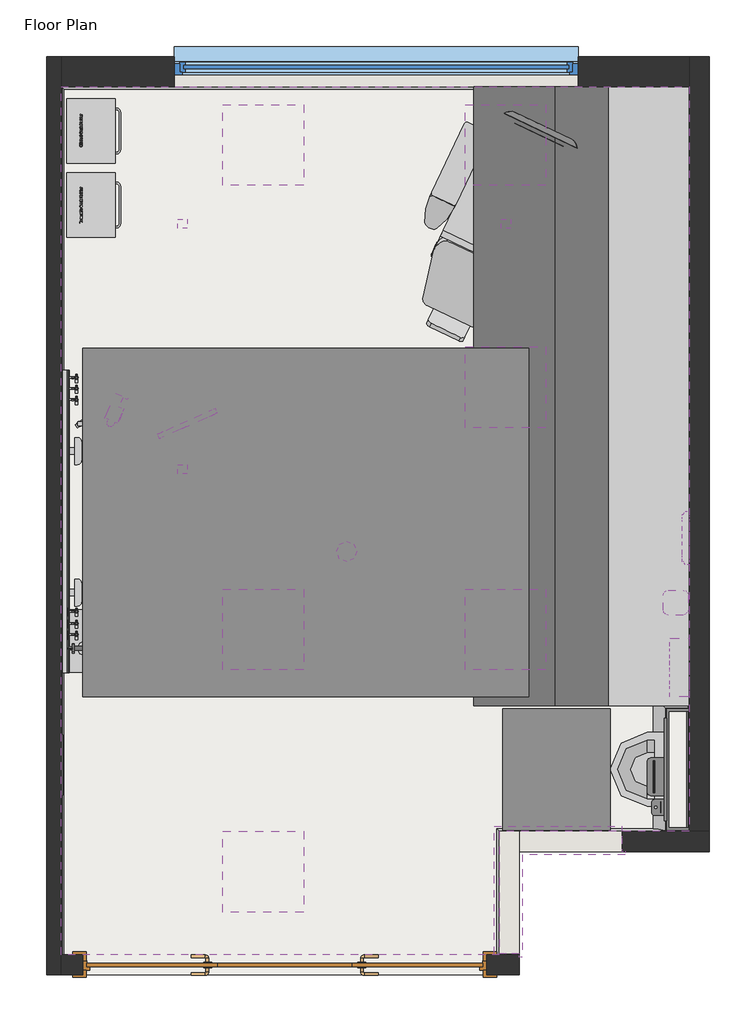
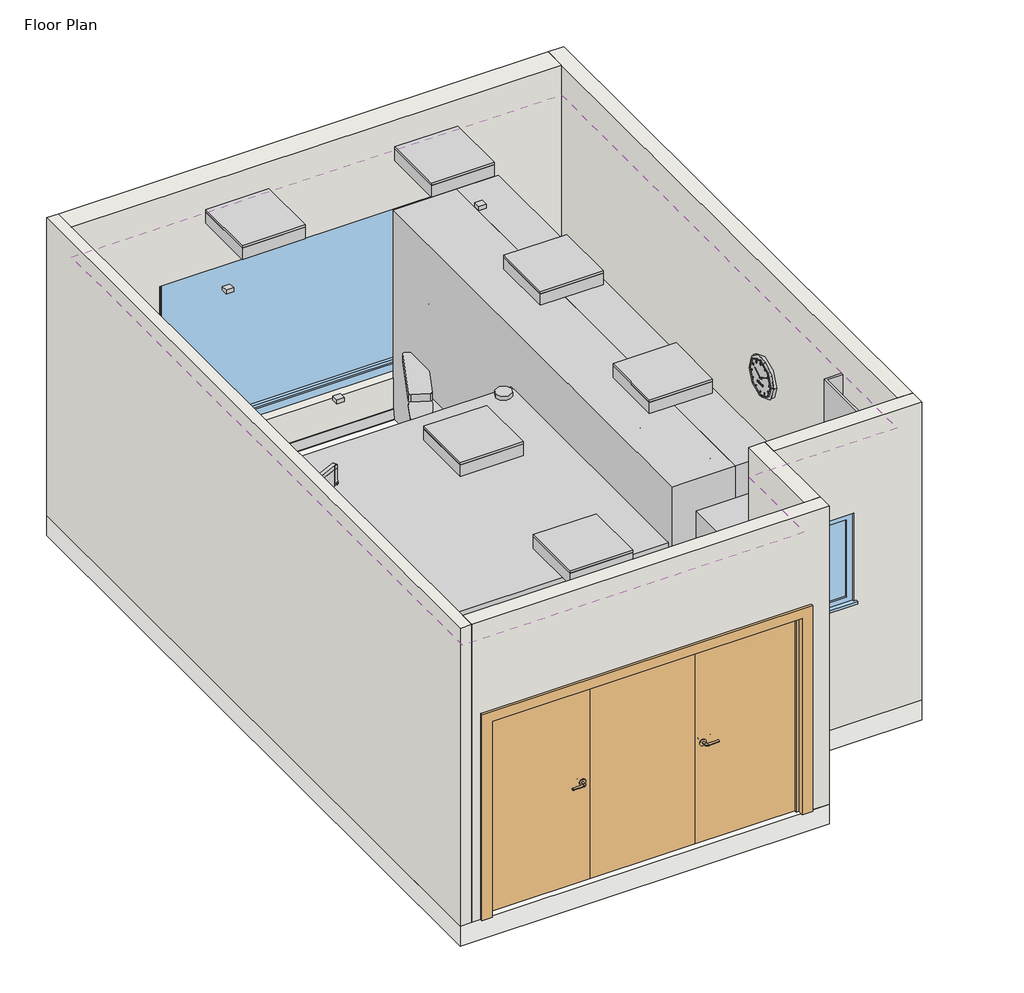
# One storey, incomplete: 21 proxies, 8 furniture elements, 6 light fixtures, 6 walls, 5 flow terminals, 2 windows, 1 covering, 1 door, 1 slab.
"""IFC4 building model written with IfcOpenShell, lengths in millimetres."""

from ifc_helpers import new_model, si_unit, frame, origin, place, context, project, spatial, polyline, outline, extrude, faceted_brep, transform, mapped, element, save
from components import generic_models_60647dcf, generic_models_1c4e6ef4, generic_models_1eb8e886, generic_models_cb7718f0, generic_models_51914271, generic_models_69a9413b, generic_models_2b17b7d5, generic_models_63d57467, generic_models_cb70edec, generic_models_a71c04e4, generic_models_7e8e4800, bimhealth_electrical_smoke_detector_v1_bimhealth_electrical_fe9fcb6c, bimhealth_extract_air_v1_bimhealth_extract_air_v1_c0e02c9f, bimhealth_trolley_mobile_cart_v1_bimhealth_trolley_mobile_f11bc73b, skirting_5_skirting_5_09078047, door_7abc1c69, flow_terminal_1bc39f43, flow_terminal_8b284a73, flow_terminal_9bf15598, flow_terminal_4f1cfbb8, flow_terminal_58a78672, furniture_204bb5f4, furniture_2942776d, furniture_197fe330, furniture_610823a6, furniture_d13f64de, furniture_92968415, furniture_166ce8d1, furniture_26d36cfe, light_fixture_600x600mm_2_lamps_e1dca80e, light_fixture_600x600mm_2_lamps_0dee724d, windows_concept_plain_sgl_910x910mm_68dbefe1, windows_corner_910x910mm_2c07b4f4

model = new_model("IFC4")

# Units and contexts
model_context = context("Model", 3, world=origin())
ifc_project = project(units=[si_unit("LENGTHUNIT", "METRE", prefix="MILLI")], contexts=[model_context])

# Site, building, storey
site = spatial("IfcSite", under=ifc_project)
building = spatial("IfcBuilding", under=site)
storey = spatial("IfcBuildingStorey", under=building, Name="Floor Plan", Elevation=0.0)

# Proxies
placement = place(None, origin())
generic_models_shape = generic_models_60647dcf(model_context)
element("IfcBuildingElementProxy", 1, Name="BIMHealth-Flowmeter_Oxygen-LOD2A-v1 : BIMHealth-Flowmeter_Oxygen-LOD2A-v1", ObjectType="BIMHealth-Flowmeter_Oxygen-LOD2A-v1 : BIMHealth-Flowmeter_Oxygen-LOD2A-v1", at=placement, inside=storey, context=model_context, shape_type="MappedRepresentation", body=[
    mapped(generic_models_shape, transform((19721.5692706, 5438.2788549, -47.5), x_axis=(0.0, -1.0000000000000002, 0.0), y_axis=(1.0000000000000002, 0.0, 0.0), z_axis=(0.0, 0.0, 1.0))),
])
element("IfcBuildingElementProxy", 2, Name="BIMHealth-Flowmeter_Oxygen-LOD2A-v1 : BIMHealth-Flowmeter_Oxygen-LOD2A-v1", ObjectType="BIMHealth-Flowmeter_Oxygen-LOD2A-v1 : BIMHealth-Flowmeter_Oxygen-LOD2A-v1", at=placement, inside=storey, context=model_context, shape_type="MappedRepresentation", body=[
    mapped(generic_models_shape, transform((19721.5692706, 5358.2788549, -47.5), x_axis=(0.0, -1.0000000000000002, 0.0), y_axis=(1.0000000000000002, 0.0, 0.0), z_axis=(0.0, 0.0, 1.0))),
])
element("IfcBuildingElementProxy", 3, Name="BIMHealth-Flowmeter_Oxygen-LOD2A-v1 : BIMHealth-Flowmeter_Oxygen-LOD2A-v1", ObjectType="BIMHealth-Flowmeter_Oxygen-LOD2A-v1 : BIMHealth-Flowmeter_Oxygen-LOD2A-v1", at=placement, inside=storey, context=model_context, shape_type="MappedRepresentation", body=[
    mapped(generic_models_shape, transform((19721.5692706, 3701.6575717, -47.5), x_axis=(0.0, -1.0000000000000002, 0.0), y_axis=(1.0000000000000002, 0.0, 0.0), z_axis=(0.0, 0.0, 1.0))),
])
element("IfcBuildingElementProxy", 4, Name="BIMHealth-Flowmeter_Oxygen-LOD2A-v1 : BIMHealth-Flowmeter_Oxygen-LOD2A-v1", ObjectType="BIMHealth-Flowmeter_Oxygen-LOD2A-v1 : BIMHealth-Flowmeter_Oxygen-LOD2A-v1", at=placement, inside=storey, context=model_context, shape_type="MappedRepresentation", body=[
    mapped(generic_models_shape, transform((19721.5692706, 3611.6575717, -47.5), x_axis=(0.0, -1.0000000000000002, 0.0), y_axis=(1.0000000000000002, 0.0, 0.0), z_axis=(0.0, 0.0, 1.0))),
])
generic_models_2_shape = generic_models_1c4e6ef4(model_context)
element("IfcBuildingElementProxy", 5, Name="BIMHealth-Flowmeter_Suction-LOD2A-v1 : BIMHealth-Flowmeter_Suction-LOD2A-v1", ObjectType="BIMHealth-Flowmeter_Suction-LOD2A-v1 : BIMHealth-Flowmeter_Suction-LOD2A-v1", at=placement, inside=storey, context=model_context, shape_type="MappedRepresentation", body=[
    mapped(generic_models_2_shape, transform((19803.5428574, 3427.1143544, -22.5), x_axis=(0.0, 1.0000000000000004, 0.0), y_axis=(-1.0000000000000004, 0.0, 0.0), z_axis=(0.0, 0.0, 1.0))),
])
generic_models_3_shape = generic_models_1eb8e886(model_context)
element("IfcBuildingElementProxy", 6, Name="BIMHealth-Flowmeter_Air-LOD2A-v1 : BIMHealth-Flowmeter_Air-LOD2A-v1", ObjectType="BIMHealth-Flowmeter_Air-LOD2A-v1 : BIMHealth-Flowmeter_Air-LOD2A-v1", at=placement, inside=storey, context=model_context, shape_type="MappedRepresentation", body=[
    mapped(generic_models_3_shape, transform((19721.5692706, 5274.4265548, -48.75), x_axis=(0.0, -1.0, 0.0), y_axis=(1.0, 0.0, 0.0), z_axis=(0.0, 0.0, 1.0))),
])
element("IfcBuildingElementProxy", 7, Name="BIMHealth-Flowmeter_Air-LOD2A-v1 : BIMHealth-Flowmeter_Air-LOD2A-v1", ObjectType="BIMHealth-Flowmeter_Air-LOD2A-v1 : BIMHealth-Flowmeter_Air-LOD2A-v1", at=placement, inside=storey, context=model_context, shape_type="MappedRepresentation", body=[
    mapped(generic_models_3_shape, transform((19721.5692706, 3529.4265548, -47.5), x_axis=(0.0, -1.0, 0.0), y_axis=(1.0, 0.0, 0.0), z_axis=(0.0, 0.0, 1.0))),
])
generic_models_4_shape = generic_models_cb7718f0(model_context)
element("IfcBuildingElementProxy", 8, Name="BIMHealth-Table_Overbed-LOD2A-v1 : BIMHealth-Table_Overbed-LOD2A-v1", ObjectType="BIMHealth-Table_Overbed-LOD2A-v1 : BIMHealth-Table_Overbed-LOD2A-v1", at=placement, inside=storey, context=model_context, shape_type="MappedRepresentation", body=[
    mapped(generic_models_4_shape, transform((20242.2361877, 5358.2284231, 0.0), x_axis=(1.0000000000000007, 0.0, 0.0), y_axis=(0.0, 1.0000000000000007, 0.0), z_axis=(0.0, 0.0, 1.0))),
])
generic_models_5_shape = generic_models_51914271(model_context)
element("IfcBuildingElementProxy", 9, Name="BIMHealth-Locker_Bedside-LOD2A-v1 : BIMHealth-Locker_Bedside-LOD2A-v1", ObjectType="BIMHealth-Locker_Bedside-LOD2A-v1 : BIMHealth-Locker_Bedside-LOD2A-v1", at=placement, inside=storey, context=model_context, shape_type="MappedRepresentation", body=[
    mapped(generic_models_5_shape, transform((19674.4763599, 3207.845391, 0.0), x_axis=(0.0, 1.0000000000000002, 0.0), y_axis=(-1.0000000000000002, 0.0, 0.0), z_axis=(0.0, 0.0, 1.0))),
])
generic_models_6_shape = generic_models_69a9413b(model_context)
element("IfcBuildingElementProxy", 10, Name="BIMHealth-Drip_Stand-LOD2A-v1 : BIMHealth-Drip_Stand-LOD2A-v1", ObjectType="BIMHealth-Drip_Stand-LOD2A-v1 : BIMHealth-Drip_Stand-LOD2A-v1", at=placement, inside=storey, context=model_context, shape_type="MappedRepresentation", body=[
    mapped(generic_models_6_shape, transform((19973.3679392, 5096.3280134, 0.0), x_axis=(-0.5877852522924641, 0.8090169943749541, 0.0), y_axis=(-0.8090169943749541, -0.5877852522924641, 0.0), z_axis=(0.0, 0.0, 1.0))),
])
generic_models_7_shape = generic_models_2b17b7d5(model_context)
element("IfcBuildingElementProxy", 11, Name="BIMHealth-Worktop-LOD2A-v1 : BIMHealth-Worktop-LOD2A-v1", ObjectType="BIMHealth-Worktop-LOD2A-v1 : BIMHealth-Worktop-LOD2A-v1", at=placement, inside=storey, context=model_context, shape_type="MappedRepresentation", body=[
    mapped(generic_models_7_shape, transform((24273.6241002, 7601.4276279, 0.0), x_axis=(0.0, -1.0, 0.0), y_axis=(1.0, 0.0, 0.0), z_axis=(0.0, 0.0, 1.0))),
])
generic_models_8_shape = generic_models_63d57467(model_context)
element("IfcBuildingElementProxy", 12, Name="BIMHealth-Dado_Double_Trunking-LOD2A-v1 : BIMHealth-Dado_Double_Trunking-LOD2A-v1", ObjectType="BIMHealth-Dado_Double_Trunking-LOD2A-v1 : BIMHealth-Dado_Double_Trunking-LOD2A-v1", at=placement, inside=storey, context=model_context, shape_type="MappedRepresentation", body=[
    mapped(generic_models_8_shape, transform((19658.6241155, 5493.7473932, 1100.0), x_axis=(0.0, -1.0000000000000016, 0.0), y_axis=(1.0000000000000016, 0.0, 0.0), z_axis=(0.0, 0.0, 1.0))),
])
generic_models_9_shape = generic_models_cb70edec(model_context)
element("IfcBuildingElementProxy", 13, Name="BIMHealth-IV_Pump-LOD2A-v1 : BIMHealth-IV_Pump-LOD2A-v1", ObjectType="BIMHealth-IV_Pump-LOD2A-v1 : BIMHealth-IV_Pump-LOD2A-v1", at=placement, inside=storey, context=model_context, shape_type="MappedRepresentation", body=[
    mapped(generic_models_9_shape, transform((19932.9194708, 5138.4195333, 0.0), x_axis=(0.39073112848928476, 0.9205048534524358, 0.0), y_axis=(-0.9205048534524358, 0.39073112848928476, 0.0), z_axis=(0.0, 0.0, 1.0))),
])
generic_models_10_shape = generic_models_a71c04e4(model_context)
element("IfcBuildingElementProxy", 14, Name="BIMHealth-Monitor_Intellivue-LOD2A-v1 : BIMHealth-Monitor_Intellivue-LOD2A-v1", ObjectType="BIMHealth-Monitor_Intellivue-LOD2A-v1 : BIMHealth-Monitor_Intellivue-LOD2A-v1", at=placement, inside=storey, context=model_context, shape_type="MappedRepresentation", body=[
    mapped(generic_models_10_shape, transform((20336.6346234, 4989.2293263, 770.0), x_axis=(0.9138541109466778, 0.4060426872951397, 0.0), y_axis=(-0.4060426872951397, 0.9138541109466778, 0.0), z_axis=(0.0, 0.0, 1.0))),
])
generic_models_11_shape = generic_models_7e8e4800(model_context)
element("IfcBuildingElementProxy", 15, Name="BIMHealth-Danicentre_ppe_Dispenser-LOD2A-v1 : BIMHealth-Danicentre_ppe_Dispenser-LOD2A-v1", ObjectType="BIMHealth-Danicentre_ppe_Dispenser-LOD2A-v1 : BIMHealth-Danicentre_ppe_Dispenser-LOD2A-v1", at=placement, inside=storey, context=model_context, shape_type="MappedRepresentation", body=[
    mapped(generic_models_11_shape, transform((24128.6241002, 3066.4276279, 0.0), x_axis=(0.0, 1.0000000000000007, 0.0), y_axis=(-1.0000000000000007, 0.0, 0.0), z_axis=(0.0, 0.0, 1.0))),
])
bimhealth_electrical_smoke_detector_v1_bimhealth_electrical_shape = bimhealth_electrical_smoke_detector_v1_bimhealth_electrical_fe9fcb6c(model_context)
element("IfcBuildingElementProxy", 16, Name="BIMHealth-Electrical-Smoke_Detector-v1 : BIMHealth-Electrical-Smoke_Detector-v1", ObjectType="BIMHealth-Electrical-Smoke_Detector-v1 : BIMHealth-Electrical-Smoke_Detector-v1", at=placement, inside=storey, context=model_context, shape_type="MappedRepresentation", body=[
    mapped(bimhealth_electrical_smoke_detector_v1_bimhealth_electrical_shape, transform((21728.6241155, 4146.5459216, 261.6), x_axis=(1.0, 0.0, 0.0), y_axis=(0.0, 1.0, 0.0), z_axis=(0.0, 0.0, 1.0))),
])
bimhealth_extract_air_v1_bimhealth_extract_air_v1_shape = bimhealth_extract_air_v1_bimhealth_extract_air_v1_c0e02c9f(model_context)
element("IfcBuildingElementProxy", 17, Name="BIMHealth-Extract_Air-v1 : BIMHealth-Extract_Air-v1", ObjectType="BIMHealth-Extract_Air-v1 : BIMHealth-Extract_Air-v1", at=placement, inside=storey, context=model_context, shape_type="MappedRepresentation", body=[
    mapped(bimhealth_extract_air_v1_bimhealth_extract_air_v1_shape, transform((20508.6241155, 4757.4063161, 261.6), x_axis=(1.0, 0.0, 0.0), y_axis=(0.0, 1.0, 0.0), z_axis=(0.0, 0.0, 1.0))),
])
element("IfcBuildingElementProxy", 18, Name="BIMHealth-Supply_Air-v1 : BIMHealth-Supply_Air-v1", ObjectType="BIMHealth-Supply_Air-v1 : BIMHealth-Supply_Air-v1", at=placement, inside=storey, context=model_context, shape_type="MappedRepresentation", body=[
    mapped(bimhealth_extract_air_v1_bimhealth_extract_air_v1_shape, transform((20508.6241155, 6581.4276279, 261.6), x_axis=(1.0, 0.0, 0.0), y_axis=(0.0, 1.0, 0.0), z_axis=(0.0, 0.0, 1.0))),
])
element("IfcBuildingElementProxy", 19, Name="BIMHealth-Supply_Air-v1 : BIMHealth-Supply_Air-v1", ObjectType="BIMHealth-Supply_Air-v1 : BIMHealth-Supply_Air-v1", at=placement, inside=storey, context=model_context, shape_type="MappedRepresentation", body=[
    mapped(bimhealth_extract_air_v1_bimhealth_extract_air_v1_shape, transform((22913.6241002, 6581.4276279, 261.6), x_axis=(1.0, 0.0, 0.0), y_axis=(0.0, 1.0, 0.0), z_axis=(0.0, 0.0, 1.0))),
])
bimhealth_trolley_mobile_cart_v1_bimhealth_trolley_mobile_shape = bimhealth_trolley_mobile_cart_v1_bimhealth_trolley_mobile_f11bc73b(model_context)
element("IfcBuildingElementProxy", 20, Name="BIMHealth-Trolley_Mobile_Cart-v1 : BIMHealth-Trolley_Mobile_Cart-v1", ObjectType="BIMHealth-Trolley_Mobile_Cart-v1 : BIMHealth-Trolley_Mobile_Cart-v1", at=placement, inside=storey, context=model_context, shape_type="MappedRepresentation", body=[
    mapped(bimhealth_trolley_mobile_cart_v1_bimhealth_trolley_mobile_shape, transform((23774.5221427, 5184.0482091, 0.0), x_axis=(0.0, 1.0, 0.0), y_axis=(-1.0, 0.0, 0.0), z_axis=(0.0, 0.0, 1.0))),
])
skirting_5_skirting_5_shape = skirting_5_skirting_5_09078047(model_context)
element("IfcBuildingElementProxy", 21, Name="Skirting 5 : Skirting 5", ObjectType="Skirting 5 : Skirting 5", at=placement, inside=storey, context=model_context, shape_type="MappedRepresentation", body=[
    mapped(skirting_5_skirting_5_shape, transform((0.0, 0.0, 0.0), x_axis=(1.0, 0.0, 0.0), y_axis=(0.0, 1.0, 0.0), z_axis=(0.0, 0.0, 1.0))),
])

# Covering
element("IfcCovering", 22, ObjectType="BIMHealth - Generic Ceiling", at=placement, inside=storey, context=model_context, shape_type="SweptSolid", body=[
    extrude(outline(polyline([(19608.6241155, 7601.4276279), (24273.6241002, 7601.4276279), (24273.6241002, 2066.7284231), (22863.0918683, 2066.7284231), (22863.0918683, 1151.4273532), (19608.6241155, 1151.4273532), (19608.6241155, 7601.4276279)]), holes=[polyline([(21408.6241155, 7466.7284231), (20808.6241155, 7466.7284231), (20808.6241155, 6866.7284231), (21408.6241155, 6866.7284231), (21408.6241155, 7466.7284231)]), polyline([(23208.6241155, 7466.7284231), (22608.6241155, 7466.7284231), (22608.6241155, 6866.7284231), (23208.6241155, 6866.7284231), (23208.6241155, 7466.7284231)]), polyline([(23208.6241155, 5666.7284231), (22608.6241155, 5666.7284231), (22608.6241155, 5066.7284231), (23208.6241155, 5066.7284231), (23208.6241155, 5666.7284231)]), polyline([(23208.6241155, 3866.7284231), (22608.6241155, 3866.7284231), (22608.6241155, 3266.7284231), (23208.6241155, 3266.7284231), (23208.6241155, 3866.7284231)]), polyline([(21408.6241155, 3866.7284231), (20808.6241155, 3866.7284231), (20808.6241155, 3266.7284231), (21408.6241155, 3266.7284231), (21408.6241155, 3866.7284231)]), polyline([(21408.6241155, 2066.7284231), (20808.6241155, 2066.7284231), (20808.6241155, 1466.7284231), (21408.6241155, 1466.7284231), (21408.6241155, 2066.7284231)])]), frame((0.0, 0.0, 2700.0), z_axis=(0.0, 0.0, 1.0), x_axis=(1.0, 0.0, 0.0)), (0.0, 0.0, 1.0), 52.0),
])

# Door
door_shape = door_7abc1c69(model_context)
element("IfcDoor", 23, ObjectType="BIMHealth-Triple_Door-LOD2A-v1 : BIMHealth-Triple_Door-LOD2A-v1", at=placement, inside=storey, context=model_context, shape_type="MappedRepresentation", body=[
    mapped(door_shape, transform((21268.3918683, 1076.4273532, 0.0), x_axis=(-1.0, 0.0, 0.0), y_axis=(0.0, -1.0, 0.0), z_axis=(0.0, 0.0, 1.0))),
])

# Flow terminals
flow_terminal_shape = flow_terminal_1bc39f43(model_context)
element("IfcFlowTerminal", 24, ObjectType="BIMHealth-Analogue-Clockl-LOD2A-v1 : BIMHealth-Analogue-Clockl-LOD2A-v1", at=placement, inside=storey, context=model_context, shape_type="MappedRepresentation", body=[
    mapped(flow_terminal_shape, transform((24273.6241002, 4246.7284231, 0.0), x_axis=(0.0, -1.0000000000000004, 0.0), y_axis=(1.0000000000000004, 0.0, 0.0), z_axis=(0.0, 0.0, 1.0))),
])
flow_terminal_2_shape = flow_terminal_8b284a73(model_context)
element("IfcFlowTerminal", 25, ObjectType="BIMHealth-Sharps-Bin-LOD2A-v1 : BIMHealth-Sharps-Bin-LOD2A-v1", at=placement, inside=storey, context=model_context, shape_type="MappedRepresentation", body=[
    mapped(flow_terminal_2_shape, transform((24173.6241002, 3766.7284231, 1200.0), x_axis=(0.0, -1.0000000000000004, 0.0), y_axis=(1.0000000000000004, 0.0, 0.0), z_axis=(0.0, 0.0, 1.0))),
])
flow_terminal_3_shape = flow_terminal_9bf15598(model_context)
element("IfcFlowTerminal", 26, ObjectType="BIMHealth-Wash_basin_Doc_M-LOD2A-v1 : BIMHealth-Wash_basin_Doc_M-LOD2A-v1", at=placement, inside=storey, context=model_context, shape_type="MappedRepresentation", body=[
    mapped(flow_terminal_3_shape, transform((24087.6241002, 2251.7284231, 500.0), x_axis=(0.0, 1.0, 0.0), y_axis=(-1.0, 0.0, 0.0), z_axis=(0.0, 0.0, 1.0))),
])
flow_terminal_4_shape = flow_terminal_4f1cfbb8(model_context)
element("IfcFlowTerminal", 27, ObjectType="BIMHealth-Bed_Vertical_Bumpter-Non_Wall_Hosted-LOD2A-v1 : BIMHealth-Bed_Vertical_Bumpter-Non_Wall_Hosted-LOD2A-v1", at=placement, inside=storey, context=model_context, shape_type="MappedRepresentation", body=[
    mapped(flow_terminal_4_shape, transform((19608.6241155, 3841.4273532, 320.0), x_axis=(0.0, -1.0000000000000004, 0.0), y_axis=(1.0000000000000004, 0.0, 0.0), z_axis=(0.0, 0.0, 1.0))),
])
flow_terminal_5_shape = flow_terminal_58a78672(model_context)
element("IfcFlowTerminal", 28, ObjectType="BIMHealth-Bed_Vertical_Bumpter-Non_Wall_Hosted-LOD2A-v1 : BIMHealth-Bed_Vertical_Bumpter-Non_Wall_Hosted-LOD2A-v1", at=placement, inside=storey, context=model_context, shape_type="MappedRepresentation", body=[
    mapped(flow_terminal_5_shape, transform((19608.6241155, 4892.8248668, 320.0), x_axis=(0.0, 1.0000000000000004, 0.0), y_axis=(-1.0000000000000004, 0.0, 0.0), z_axis=(0.0, 0.0, 1.0))),
])

# Furniture
furniture_shape = furniture_204bb5f4(model_context)
element("IfcFurniture", 29, ObjectType="BIMHealth-Bed_Critical_Care-LOD2A-v1 : BIMHealth-Bed_Critical_Care-LOD2A-v1", at=placement, inside=storey, context=model_context, shape_type="MappedRepresentation", body=[
    mapped(furniture_shape, transform((21112.7361877, 4362.12611, 0.0), x_axis=(0.0, 1.0000000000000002, 0.0), y_axis=(-1.0000000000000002, 0.0, 0.0), z_axis=(0.0, 0.0, 1.0))),
])
furniture_2_shape = furniture_2942776d(model_context)
element("IfcFurniture", 30, ObjectType="BIMHealth-Mirror_Small-LOD2A-v1 : BIMHealth-Mirror_Small-LOD2A-v1", at=placement, inside=storey, context=model_context, shape_type="MappedRepresentation", body=[
    mapped(furniture_2_shape, transform((19608.6241155, 2334.1105468, 0.0), x_axis=(0.0, 1.0, 0.0), y_axis=(-1.0, 0.0, 0.0), z_axis=(0.0, 0.0, 1.0))),
])
furniture_3_shape = furniture_197fe330(model_context)
element("IfcFurniture", 31, ObjectType="BIMHealth-Sack_Holder_Domestic-LOD2A-v1 : BIMHealth-Sack_Holder_Domestic-LOD2A-v1", at=placement, inside=storey, context=model_context, shape_type="MappedRepresentation", body=[
    mapped(furniture_3_shape, transform((19668.6241155, 6501.4276279, 0.0), x_axis=(0.0, 1.0000000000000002, 0.0), y_axis=(-1.0000000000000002, 0.0, 0.0), z_axis=(0.0, 0.0, 1.0))),
])
furniture_4_shape = furniture_610823a6(model_context)
element("IfcFurniture", 32, ObjectType="BIMHealth-Sack_Holder_Clinical-LOD2A-v1 : BIMHealth-Sack_Holder_Clinical-LOD2A-v1", at=placement, inside=storey, context=model_context, shape_type="MappedRepresentation", body=[
    mapped(furniture_4_shape, transform((19668.6241155, 7051.4276279, 0.0), x_axis=(0.0, 1.0000000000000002, 0.0), y_axis=(-1.0000000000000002, 0.0, 0.0), z_axis=(0.0, 0.0, 1.0))),
])
furniture_5_shape = furniture_d13f64de(model_context)
element("IfcFurniture", 33, ObjectType="BIMHealth-Chair_Clinical_Reclining-LOD2A-v1 : BIMHealth-Chair_Clinical_Reclining-LOD2A-v1", at=placement, inside=storey, context=model_context, shape_type="MappedRepresentation", body=[
    mapped(furniture_5_shape, transform((22916.9614877, 6739.4384373, 0.0), x_axis=(0.902574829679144, -0.4305330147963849, 0.0), y_axis=(0.4305330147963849, 0.902574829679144, 0.0), z_axis=(0.0, 0.0, 1.0))),
])
furniture_6_shape = furniture_92968415(model_context)
element("IfcFurniture", 34, ObjectType="BIMHealth-Washstation-LOD2A-v1 : BIMHealth-Washstation-LOD2A-v1", at=placement, inside=storey, context=model_context, shape_type="MappedRepresentation", body=[
    mapped(furniture_6_shape, transform((24273.6241002, 2976.7284231, 0.0), x_axis=(0.0, 1.0000000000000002, 0.0), y_axis=(-1.0000000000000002, 0.0, 0.0), z_axis=(0.0, 0.0, 1.0))),
])
furniture_7_shape = furniture_166ce8d1(model_context)
element("IfcFurniture", 35, ObjectType="BIMHealth-Paper_Towel_Dispenser-LOD2A-v1 : BIMHealth-Paper_Towel_Dispenser-LOD2A-v1", at=placement, inside=storey, context=model_context, shape_type="MappedRepresentation", body=[
    mapped(furniture_7_shape, transform((24087.6241002, 2613.107358, 0.0), x_axis=(0.0, -1.0, 0.0), y_axis=(1.0, 0.0, 0.0), z_axis=(0.0, 0.0, 1.0))),
])
furniture_8_shape = furniture_26d36cfe(model_context)
element("IfcFurniture", 36, ObjectType="BIMHealth-Soap_Dispenser-LOD2A-v1 : BIMHealth-Soap_Dispenser-LOD2A-v1", at=placement, inside=storey, context=model_context, shape_type="MappedRepresentation", body=[
    mapped(furniture_8_shape, transform((24087.6241002, 2305.2998752, 0.0), x_axis=(0.0, -1.0000000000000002, 0.0), y_axis=(1.0000000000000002, 0.0, 0.0), z_axis=(0.0, 0.0, 1.0))),
])

# Light fixtures
light_fixture_600x600mm_2_lamps_shape = light_fixture_600x600mm_2_lamps_e1dca80e(model_context)
element("IfcLightFixture", 37, ObjectType="BIMHealth-Ceiling_Light-LOD2A-v1 : 600x600mm-2_Lamps", at=placement, inside=storey, context=model_context, shape_type="MappedRepresentation", body=[
    mapped(light_fixture_600x600mm_2_lamps_shape, transform((21132.1276171, 7221.3943552, 261.6), x_axis=(1.0, 0.0, 0.0), y_axis=(0.0, 1.0, 0.0), z_axis=(0.0, 0.0, 1.0))),
])
element("IfcLightFixture", 38, ObjectType="BIMHealth-Ceiling_Light-LOD2A-v1 : 600x600mm-2_Lamps", at=placement, inside=storey, context=model_context, shape_type="MappedRepresentation", body=[
    mapped(light_fixture_600x600mm_2_lamps_shape, transform((22932.1276171, 5421.3943552, 261.6), x_axis=(1.0, 0.0, 0.0), y_axis=(0.0, 1.0, 0.0), z_axis=(0.0, 0.0, 1.0))),
])
element("IfcLightFixture", 39, ObjectType="BIMHealth-Ceiling_Light-LOD2A-v1 : 600x600mm-2_Lamps", at=placement, inside=storey, context=model_context, shape_type="MappedRepresentation", body=[
    mapped(light_fixture_600x600mm_2_lamps_shape, transform((22932.1276171, 3621.3943552, 261.6), x_axis=(1.0, 0.0, 0.0), y_axis=(0.0, 1.0, 0.0), z_axis=(0.0, 0.0, 1.0))),
])
element("IfcLightFixture", 40, ObjectType="BIMHealth-Ceiling_Light-LOD2A-v1 : 600x600mm-2_Lamps", at=placement, inside=storey, context=model_context, shape_type="MappedRepresentation", body=[
    mapped(light_fixture_600x600mm_2_lamps_shape, transform((21132.1276171, 3621.3943552, 261.6), x_axis=(1.0, 0.0, 0.0), y_axis=(0.0, 1.0, 0.0), z_axis=(0.0, 0.0, 1.0))),
])
light_fixture_600x600mm_2_lamps_2_shape = light_fixture_600x600mm_2_lamps_0dee724d(model_context)
element("IfcLightFixture", 41, ObjectType="BIMHealth-Ceiling_Light-Non_Maintained-Emergency-LOD2A-v1 : 600x600mm-2_Lamps", at=placement, inside=storey, context=model_context, shape_type="MappedRepresentation", body=[
    mapped(light_fixture_600x600mm_2_lamps_2_shape, transform((22932.1276171, 7221.3943552, 261.6), x_axis=(1.0, 0.0, 0.0), y_axis=(0.0, 1.0, 0.0), z_axis=(0.0, 0.0, 1.0))),
])
element("IfcLightFixture", 42, ObjectType="BIMHealth-Ceiling_Light-Non_Maintained-Emergency-LOD2A-v1 : 600x600mm-2_Lamps", at=placement, inside=storey, context=model_context, shape_type="MappedRepresentation", body=[
    mapped(light_fixture_600x600mm_2_lamps_2_shape, transform((21132.1276171, 1821.3943552, 261.6), x_axis=(1.0, 0.0, 0.0), y_axis=(0.0, 1.0, 0.0), z_axis=(0.0, 0.0, 1.0))),
])

# Slab
element("IfcSlab", 43, ObjectType="BIMHealth - Generic Floor", at=placement, inside=storey, context=model_context, shape_type="SweptSolid", body=[
    extrude(outline(polyline([(19498.6241155, 1001.4273532), (19498.6241155, 7821.4276279), (24423.6241002, 7821.4276279), (24423.6241002, 1916.7284231), (23013.0918683, 1916.7284231), (23013.0918683, 1001.4273532), (19498.6241155, 1001.4273532)])), frame((0.0, 0.0, -200.0), z_axis=(0.0, 0.0, 1.0), x_axis=(1.0, 0.0, 0.0)), (0.0, 0.0, 1.0), 200.0),
])

# Walls
element("IfcWall", 44, ObjectType="BIMHealth - Generic Wall", at=placement, inside=storey, context=model_context, shape_type="Brep", body=[
    faceted_brep([(23013.0918683, 1001.4273532, 3000.0), (19608.6241155, 1001.4273532, 3000.0), (19608.6241155, 1001.4273532, 0.0), (19768.3918683, 1001.4273532, 0.0), (19768.3918683, 1001.4273532, 2000.0), (22768.3918683, 1001.4273532, 2000.0), (22768.3918683, 1001.4273532, 0.0), (23013.0918683, 1001.4273532, 0.0), (19608.6241155, 1151.4273532, 3000.0), (22863.0918683, 1151.4273532, 3000.0), (23013.0918683, 1151.4273532, 3000.0), (23013.0918683, 1151.4273532, 0.0), (22863.0918683, 1151.4273532, 0.0), (22768.3918683, 1151.4273532, 0.0), (22768.3918683, 1151.4273532, 2000.0), (19768.3918683, 1151.4273532, 2000.0), (19768.3918683, 1151.4273532, 0.0), (19608.6241155, 1151.4273532, 0.0)], [[[0, 1, 2, 3, 4, 5, 6, 7]], [[8, 9, 10, 11, 12, 13, 14, 15, 16, 17]], [[2, 17, 16, 3]], [[11, 7, 6, 13, 12]], [[1, 0, 10, 9, 8]], [[2, 1, 8, 17]], [[0, 7, 11, 10]], [[15, 4, 3, 16]], [[4, 15, 14, 5]], [[5, 14, 13, 6]]]),
])
element("IfcWall", 45, ObjectType="BIMHealth - Generic Wall", at=placement, inside=storey, context=model_context, shape_type="Brep", body=[
    faceted_brep([(23013.0918683, 1151.4273532, 0.0), (23013.0918683, 1916.7284231, 0.0), (23013.0918683, 2066.7284231, 0.0), (23013.0918683, 2066.7284231, 1200.0), (23013.0918683, 1916.7284231, 1200.0), (23013.0918683, 1894.8301823, 1200.0), (23013.0918683, 1156.7284231, 1200.0), (23013.0918683, 1156.7284231, 2110.0), (23013.0918683, 1894.8301823, 2110.0), (23013.0918683, 1916.7284231, 2110.0), (23013.0918683, 2066.7284231, 2110.0), (23013.0918683, 2066.7284231, 3000.0), (23013.0918683, 1916.7284231, 3000.0), (23013.0918683, 1151.4273532, 3000.0), (22863.0918683, 2066.7284231, 0.0), (22863.0918683, 1151.4273532, 0.0), (22863.0918683, 1151.4273532, 3000.0), (22863.0918683, 2066.7284231, 3000.0), (22863.0918683, 2066.7284231, 2110.0), (22863.0918683, 1156.7284231, 2110.0), (22863.0918683, 1156.7284231, 1200.0), (22863.0918683, 2066.7284231, 1200.0)], [[[0, 1, 2, 3, 4, 5, 6, 7, 8, 9, 10, 11, 12, 13]], [[14, 15, 16, 17, 18, 19, 20, 21]], [[2, 1, 0, 15, 14]], [[13, 12, 11, 17, 16]], [[0, 13, 16, 15]], [[2, 14, 21, 3]], [[17, 11, 10, 18]], [[7, 19, 18, 10, 9, 8]], [[20, 6, 5, 4, 3, 21]], [[19, 7, 6, 20]]]),
])
element("IfcWall", 46, ObjectType="BIMHealth - Generic Wall", at=placement, inside=storey, context=model_context, shape_type="Brep", body=[
    faceted_brep([(23013.0918683, 1916.7284231, 0.0), (24423.6241002, 1916.7284231, 0.0), (24423.6241002, 1916.7284231, 3000.0), (23013.0918683, 1916.7284231, 3000.0), (23013.0918683, 1916.7284231, 2110.0), (23773.0918683, 1916.7284231, 2110.0), (23773.0918683, 1916.7284231, 1200.0), (23013.0918683, 1916.7284231, 1200.0), (24423.6241002, 2066.7284231, 0.0), (24273.6241002, 2066.7284231, 0.0), (23013.0918683, 2066.7284231, 0.0), (23013.0918683, 2066.7284231, 1200.0), (23773.0918683, 2066.7284231, 1200.0), (23773.0918683, 2066.7284231, 2110.0), (23013.0918683, 2066.7284231, 2110.0), (23013.0918683, 2066.7284231, 3000.0), (24273.6241002, 2066.7284231, 3000.0), (24423.6241002, 2066.7284231, 3000.0)], [[[0, 1, 2, 3, 4, 5, 6, 7]], [[8, 9, 10, 11, 12, 13, 14, 15, 16, 17]], [[1, 0, 10, 9, 8]], [[3, 2, 17, 16, 15]], [[3, 15, 14, 4]], [[10, 0, 7, 11]], [[2, 1, 8, 17]], [[13, 5, 4, 14]], [[6, 12, 11, 7]], [[5, 13, 12, 6]]]),
])
element("IfcWall", 47, ObjectType="BIMHealth - Generic Wall", at=placement, inside=storey, context=model_context, shape_type="Brep", body=[
    faceted_brep([(24423.6241002, 2066.7284231, 0.0), (24423.6241002, 7821.4276279, 0.0), (24423.6241002, 7821.4276279, 3000.0), (24423.6241002, 2066.7284231, 3000.0), (24273.6241002, 2066.7284231, 0.0), (24273.6241002, 2066.7284231, 3000.0), (24273.6241002, 7601.4276279, 3000.0), (24273.6241002, 7821.4276279, 3000.0), (24273.6241002, 7821.4276279, 0.0), (24273.6241002, 7601.4276279, 0.0)], [[[0, 1, 2, 3]], [[4, 5, 6, 7, 8, 9]], [[1, 0, 4, 9, 8]], [[3, 2, 7, 6, 5]], [[2, 1, 8, 7]], [[0, 3, 5, 4]]]),
])
element("IfcWall", 48, ObjectType="BIMHealth - Generic Wall 2", at=placement, inside=storey, context=model_context, shape_type="Brep", body=[
    faceted_brep([(19498.6241155, 7821.4276279, 0.0), (19498.6241155, 1001.4273532, 0.0), (19498.6241155, 1001.4273532, 3000.0), (19498.6241155, 7821.4276279, 3000.0), (19608.6241155, 7821.4276279, 0.0), (19608.6241155, 7821.4276279, 3000.0), (19608.6241155, 7601.4276279, 3000.0), (19608.6241155, 1151.4273532, 3000.0), (19608.6241155, 1001.4273532, 3000.0), (19608.6241155, 1001.4273532, 0.0), (19608.6241155, 1151.4273532, 0.0), (19608.6241155, 7601.4276279, 0.0)], [[[0, 1, 2, 3]], [[4, 5, 6, 7, 8, 9, 10, 11]], [[1, 0, 4, 11, 10, 9]], [[3, 2, 8, 7, 6, 5]], [[2, 1, 9, 8]], [[0, 3, 5, 4]]]),
])
element("IfcWall", 49, ObjectType="BIMHealth - Generic Wall 3", at=placement, inside=storey, context=model_context, shape_type="SweptSolid", body=[
    extrude(outline(polyline([(0.0, 19608.6241155), (0.0, 24273.6241002), (3000.0, 24273.6241002), (3000.0, 19608.6241155), (0.0, 19608.6241155)]), holes=[polyline([(2110.0, 20448.0199951), (2110.0, 23448.0199951), (410.0, 23448.0199951), (410.0, 20448.0199951), (2110.0, 20448.0199951)])]), frame((0.0, 7601.4276279, 0.0), z_axis=(0.0, 1.0, 0.0), x_axis=(0.0, 0.0, 1.0)), (0.0, 0.0, 1.0), 220.0),
])

# Windows
windows_concept_plain_sgl_910x910mm_shape = windows_concept_plain_sgl_910x910mm_68dbefe1(model_context)
element("IfcWindow", 50, ObjectType="Windows_Concept_Plain_Sgl : 910x910mm", at=placement, inside=storey, context=model_context, shape_type="MappedRepresentation", body=[
    mapped(windows_concept_plain_sgl_910x910mm_shape, transform((21948.0199951, 7702.97106, 0.0), x_axis=(1.0, 0.0, 0.0), y_axis=(0.0, 1.0, 0.0), z_axis=(0.0, 0.0, 1.0))),
])
windows_corner_910x910mm_shape = windows_corner_910x910mm_2c07b4f4(model_context)
element("IfcWindow", 51, ObjectType="Windows_Corner : 910x910mm", at=placement, inside=storey, context=model_context, shape_type="MappedRepresentation", body=[
    mapped(windows_corner_910x910mm_shape, transform((22848.5874653, 1611.7284231, 0.0), x_axis=(0.0, -1.0, 0.0), y_axis=(1.0, 0.0, 0.0), z_axis=(0.0, 0.0, 1.0))),
])

save(model, "model.ifc")
